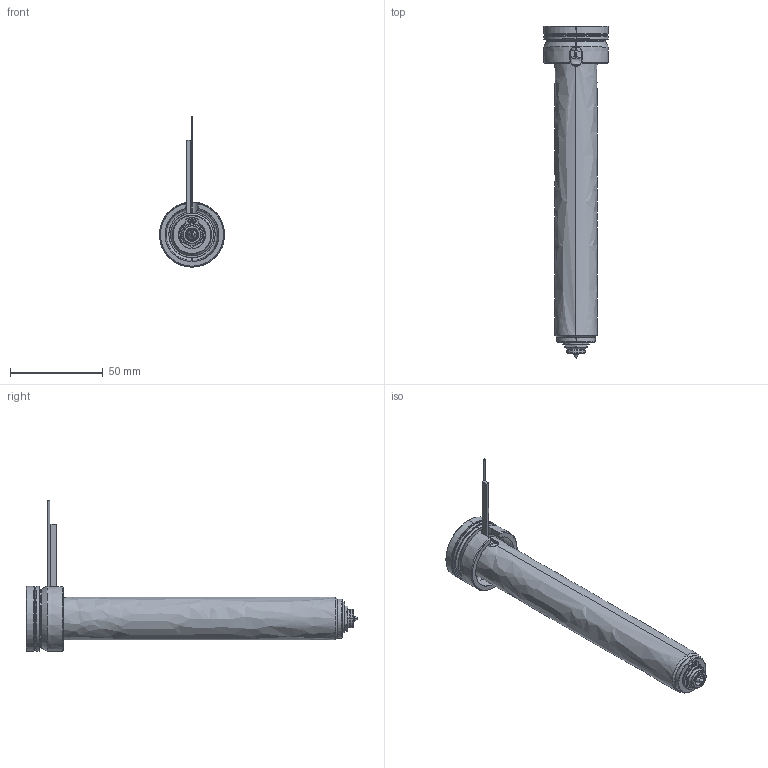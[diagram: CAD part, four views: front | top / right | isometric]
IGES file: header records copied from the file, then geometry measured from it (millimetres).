
Start section: SolidWorks IGES file using analytic representation for surfaces
Global section: file name: C:\Documents and Settings\ws-20\Desktop\TEM\UGEP3054-S-A-1 [Øf-0.70 ØC-6.0].IGS; native system: SolidWorks 2012; preprocessor: SolidWorks 2012; author: ws-20; date: 120402.112951; units: millimetre
Bounding box: 35 x 178.8 x 80.9 mm (x, y, z)
Surface area: 26136.7 mm2 (no closed solid volume)
Topology: 0 solids, 0 shells, 137 faces, 2064 edges, 2064 vertices
Faces by surface type: revolution 85, bspline 52
